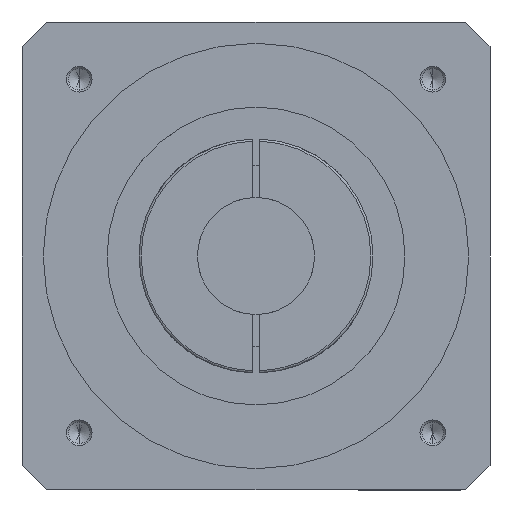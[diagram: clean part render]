
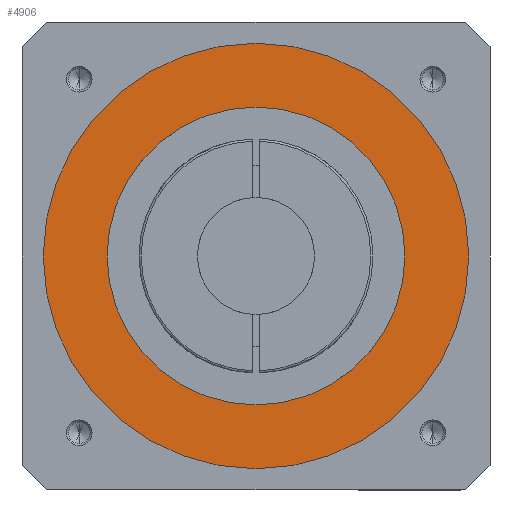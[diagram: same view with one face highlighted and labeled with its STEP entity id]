
A CAD part, front view. The second image highlights one B-rep face of the part: STEP entity #4906.
In plain terms, the highlighted planar face has unit normal (0, -1, 0).
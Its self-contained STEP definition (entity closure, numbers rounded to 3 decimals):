
#76 = EDGE_CURVE ( 'NONE', #2392, #2365, #1121, .T. ) ;
#90 = EDGE_CURVE ( 'NONE', #2365, #2392, #1136, .T. ) ;
#144 = EDGE_CURVE ( 'NONE', #2780, #2342, #1209, .T. ) ;
#839 = EDGE_LOOP ( 'NONE', ( #923, #918 ) ) ;
#850 = EDGE_LOOP ( 'NONE', ( #928, #916 ) ) ;
#916 = ORIENTED_EDGE ( 'NONE', *, *, #144, .T. ) ;
#918 = ORIENTED_EDGE ( 'NONE', *, *, #90, .T. ) ;
#923 = ORIENTED_EDGE ( 'NONE', *, *, #76, .T. ) ;
#928 = ORIENTED_EDGE ( 'NONE', *, *, #3184, .T. ) ;
#1121 = CIRCLE ( 'NONE', #3220, 70. ) ;
#1136 = CIRCLE ( 'NONE', #3213, 70. ) ;
#1209 = CIRCLE ( 'NONE', #3191, 100. ) ;
#1379 = CIRCLE ( 'NONE', #2835, 100. ) ;
#1791 = CARTESIAN_POINT ( 'NONE',  ( 0., -138., -100. ) ) ;
#1812 = CARTESIAN_POINT ( 'NONE',  ( 0., -138., 70. ) ) ;
#1839 = CARTESIAN_POINT ( 'NONE',  ( 0., -138., -70. ) ) ;
#1889 = CARTESIAN_POINT ( 'NONE',  ( 0., -138., 100. ) ) ;
#1910 = CARTESIAN_POINT ( 'NONE',  ( 0., -138., 0. ) ) ;
#1911 = DIRECTION ( 'NONE',  ( 0., -1., 0. ) ) ;
#1912 = DIRECTION ( 'NONE',  ( 0., 0., -1. ) ) ;
#2342 = VERTEX_POINT ( 'NONE', #1791 ) ;
#2365 = VERTEX_POINT ( 'NONE', #1812 ) ;
#2392 = VERTEX_POINT ( 'NONE', #1839 ) ;
#2550 = DIRECTION ( 'NONE',  ( 0., 0., -1. ) ) ;
#2551 = DIRECTION ( 'NONE',  ( 0., 1., 0. ) ) ;
#2554 = CARTESIAN_POINT ( 'NONE',  ( 0., -138., 0. ) ) ;
#2626 = CARTESIAN_POINT ( 'NONE',  ( 0., -138., 0. ) ) ;
#2631 = DIRECTION ( 'NONE',  ( 0., 0., -1. ) ) ;
#2632 = DIRECTION ( 'NONE',  ( 0., 1., 0. ) ) ;
#2780 = VERTEX_POINT ( 'NONE', #1889 ) ;
#2835 = AXIS2_PLACEMENT_3D ( 'NONE', #1910, #1911, #1912 ) ;
#3020 = AXIS2_PLACEMENT_3D ( 'NONE', #3918, #3923, #3924 ) ;
#3140 = DIRECTION ( 'NONE',  ( 0., 0., -1. ) ) ;
#3141 = DIRECTION ( 'NONE',  ( 0., -1., 0. ) ) ;
#3142 = CARTESIAN_POINT ( 'NONE',  ( 0., -138., 0. ) ) ;
#3184 = EDGE_CURVE ( 'NONE', #2342, #2780, #1379, .T. ) ;
#3191 = AXIS2_PLACEMENT_3D ( 'NONE', #3142, #3141, #3140 ) ;
#3213 = AXIS2_PLACEMENT_3D ( 'NONE', #2554, #2551, #2550 ) ;
#3220 = AXIS2_PLACEMENT_3D ( 'NONE', #2626, #2632, #2631 ) ;
#3433 = FACE_OUTER_BOUND ( 'NONE', #850, .T. ) ;
#3449 = FACE_BOUND ( 'NONE', #839, .T. ) ;
#3918 = CARTESIAN_POINT ( 'NONE',  ( 0., -138., 0. ) ) ;
#3921 = PLANE ( 'NONE',  #3020 ) ;
#3923 = DIRECTION ( 'NONE',  ( 0., -1., 0. ) ) ;
#3924 = DIRECTION ( 'NONE',  ( 0., 0., -1. ) ) ;
#4906 = ADVANCED_FACE ( 'NONE', ( #3433, #3449 ), #3921, .T. ) ;
